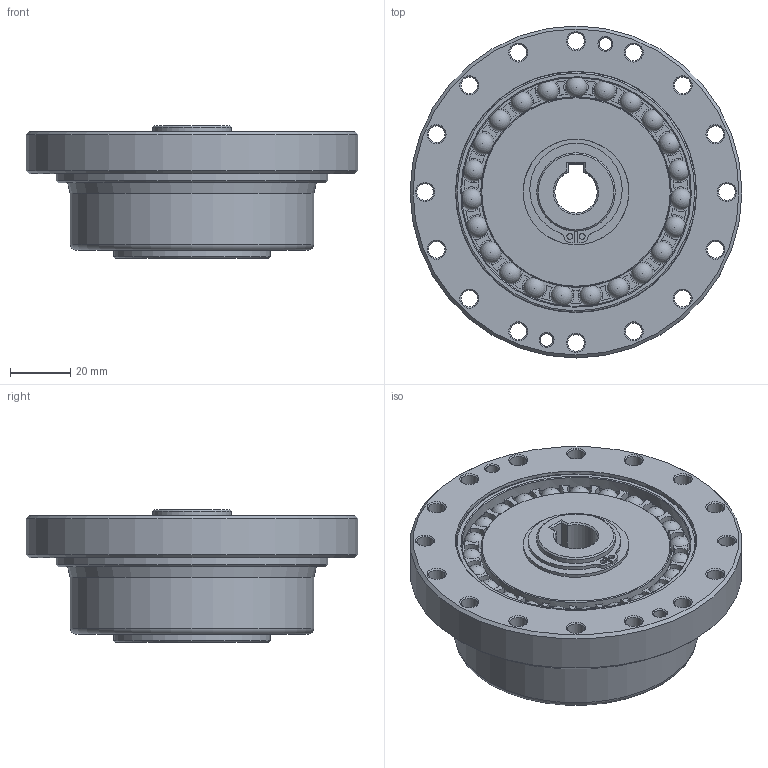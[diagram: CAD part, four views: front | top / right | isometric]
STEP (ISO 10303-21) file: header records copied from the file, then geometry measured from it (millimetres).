
FILE_DESCRIPTION(/* description */ (''),/* implementation_level */ '2;1');
FILE_NAME(/* name */ '\\hiwin.tw\dfs\TB00F\研發課二組\\X2\6A5F5BC67D1A\X0\\97.同仁共享區 (機密級)\H11\\X2\6B236021\X0\\2023專案追蹤\2.型錄\\X2\6A21578B\X0\\DGC-CO\DGC-32-XX-CO.stp',/* time_stamp */ '2024-10-22T11:49:49+08:00',/* author */ ('ted40524246.cheng'),/* organization */ (''),/* preprocessor_version */ 'ST-DEVELOPER v15.2',/* originating_system */ 'Autodesk Inventor 2014',/* authorisation */ '');
FILE_SCHEMA (('AUTOMOTIVE_DESIGN { 1 0 10303 214 3 1 1 }'));
Length unit declared in the file: centimetre
Products named in the file (1): DGC-32-XX-CO
Bounding box: 110 x 110 x 44 mm (x, y, z)
Volume: 142115.6 mm3; surface area: 55335.4 mm2
Topology: 1 solids, 1 shells, 364 faces, 906 edges, 557 vertices
Faces by surface type: cylinder 145, plane 76, cone 71, torus 49, sphere 23
Full cylindrical faces by diameter (mm): 2 x2, 4.134 x4, 5.5 x16, 9 x8, 24.9 x1, 26 x3, 26.1 x1, 35 x1, 52 x1, 53.5 x1, 63.04 x1, 75.82 x1, 79.75 x2, 80.7 x1, 90 x1, 110 x1
Entity records: 10029 total; most frequent: DIRECTION 1956, CARTESIAN_POINT 1531, ORIENTED_EDGE 1454, AXIS2_PLACEMENT_3D 914, EDGE_CURVE 681, EDGE_LOOP 578, CIRCLE 549, VERTEX_POINT 473
